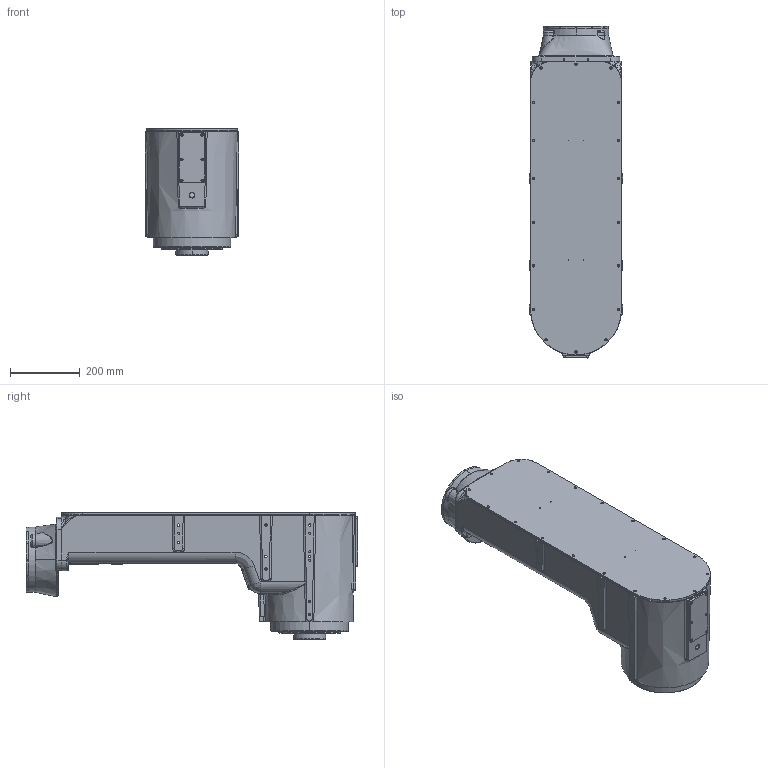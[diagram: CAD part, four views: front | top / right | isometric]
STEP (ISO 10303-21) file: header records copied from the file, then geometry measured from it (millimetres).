
FILE_DESCRIPTION (( 'STEP AP214' ), '1' );
FILE_NAME ('P-50iB-10L OUTER ARM 900.STEP', '2021-02-18T02:15:31', ( '' ), ( '' ), 'SwSTEP 2.0', 'SolidWorks 2019', '' );
FILE_SCHEMA (( 'AUTOMOTIVE_DESIGN' ));
Length unit declared in the file: inch
Products named in the file (1): P-50iB-10L OUTER ARM 900
Bounding box: 268 x 949.84 x 361.44 mm (x, y, z)
Surface area: 1285929.5 mm2 (no closed solid volume)
Topology: 0 solids, 17 shells, 867 faces, 2913 edges, 2016 vertices
Faces by surface type: cylinder 401, bspline 262, plane 153, cone 51
Entity records: 68360 total; most frequent: CARTESIAN_POINT 42366, ORIENTED_EDGE 4772, DIRECTION 3957, EDGE_CURVE 2898, VERTEX_POINT 2016, AXIS2_PLACEMENT_3D 1574, EDGE_LOOP 1098, B_SPLINE_CURVE_WITH_KNOTS 1051
